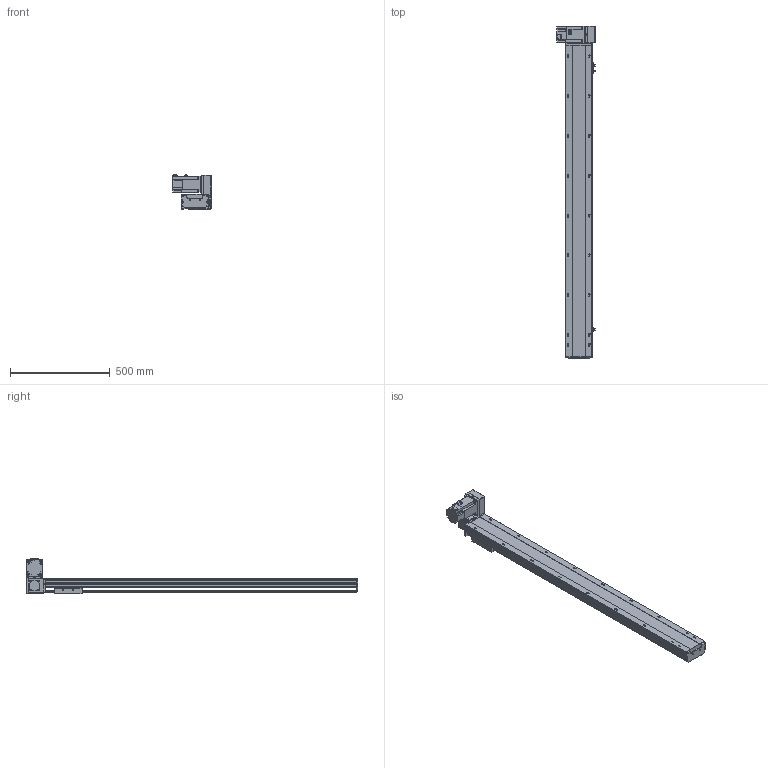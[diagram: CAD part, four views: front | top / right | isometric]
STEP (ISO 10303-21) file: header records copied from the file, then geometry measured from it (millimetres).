
FILE_DESCRIPTION (( 'STEP AP203' ), '1' );
FILE_NAME ('26.STEP', '2020-10-27T11:20:37', ( '' ), ( '' ), 'SwSTEP 2.0', 'SolidWorks 2016', '' );
FILE_SCHEMA (( 'CONFIG_CONTROL_DESIGN' ));
Length unit declared in the file: millimetre
Products named in the file (12): BTB14-RD-HZ; BTB14-RD-24; FS-33-T75; BTB14-RD-06; BTB14-RD-菁釱; BTB14-RD-04; FS-08-T75; FS-07-T75; BTB14-RD-01; BTB14-RD-T75; 26; BTB14-RD-23
Assembly tree (14 placements, depth 2):
  26
    BTB14-RD-菁釱
    BTB14-RD-01
    BTB14-RD-04  x3
    BTB14-RD-06
    BTB14-RD-23  x2
    BTB14-RD-24
    BTB14-RD-HZ
    FS-07-T75
    FS-08-T75
    FS-33-T75
    BTB14-RD-T75
Bounding box: 191.8 x 1668 x 176.1 mm (x, y, z)
Volume: 7921883.8 mm3; surface area: 1608591.1 mm2
Topology: 24 solids, 24 shells, 1810 faces, 4763 edges, 3052 vertices
Faces by surface type: plane 1033, cylinder 506, cone 132, bspline 127, torus 12
Entity records: 53448 total; most frequent: CARTESIAN_POINT 16507, ORIENTED_EDGE 7432, DIRECTION 7174, EDGE_CURVE 3716, VECTOR 2504, LINE 2504, VERTEX_POINT 2430, AXIS2_PLACEMENT_3D 2335
